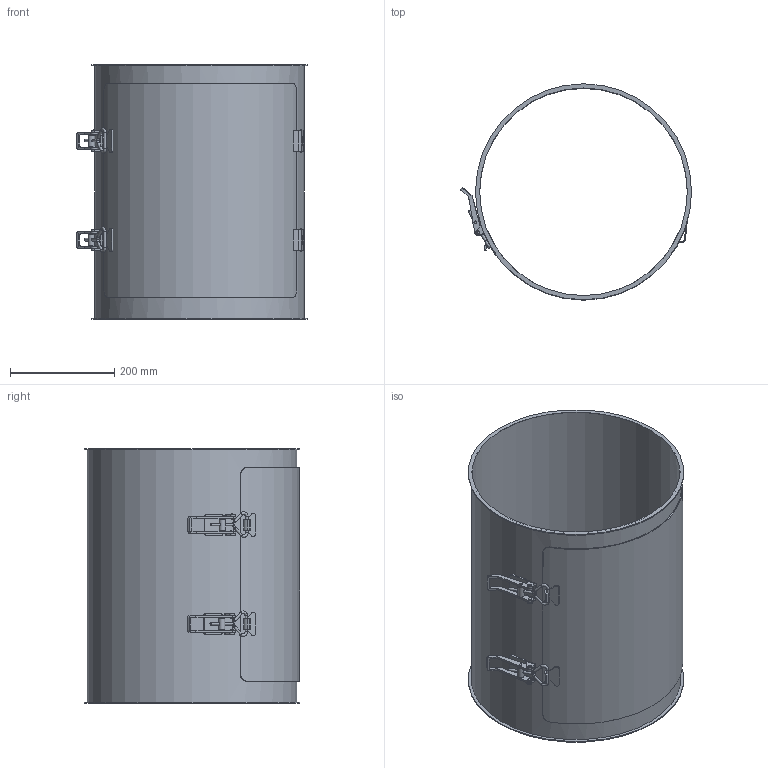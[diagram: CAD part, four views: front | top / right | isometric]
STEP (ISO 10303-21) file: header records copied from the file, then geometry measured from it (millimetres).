
FILE_DESCRIPTION((''),'2;1');
FILE_NAME('U:\Wolfgang\Marcel-3D\fertig\Kapitel 4\4021142.stp','2011-04-21T08:22:45',('TK1'),(''),'Autodesk Inventor 2010','Autodesk Inventor 2010','');
FILE_SCHEMA(('AUTOMOTIVE_DESIGN { 1 0 10303 214 1 1 1 1 }'));
Length unit declared in the file: millimetre
Products named in the file (14): 4021142; 4021142-Rohr; 4021142-verschluss; Verschluss ab 35-1; Verschluss ab 35-2; Verschluss ab 35-3; Verschluss ab 35-4; Verschluss ab 35-5; Gelenk40; Deckel40; 4021142 Halterung2; 4021142-Deckel; verschluss40; 4021142 Halterung3
Assembly tree (19 placements, depth 3):
  4021142
    4021142-Rohr
    4021142-verschluss  x2
      Verschluss ab 35-1
      Verschluss ab 35-2
      Verschluss ab 35-3
      Verschluss ab 35-4
      Verschluss ab 35-5
    Gelenk40  x2
    Deckel40
      4021142 Halterung2  x2
      4021142-Deckel
      verschluss40  x2
    4021142 Halterung3  x2
Bounding box: 442.78 x 414 x 488 mm (x, y, z)
Volume: 1423921.3 mm3; surface area: 1422734.6 mm2
Topology: 22 solids, 22 shells, 334 faces, 815 edges, 535 vertices
Faces by surface type: plane 157, cylinder 138, bspline 19, sphere 12, torus 8
Full cylindrical faces by diameter (mm): 4.917 x2, 5 x32, 6 x8, 12 x2, 398 x1, 402 x1, 414 x2
Entity records: 5925 total; most frequent: CARTESIAN_POINT 1344, DIRECTION 934, ORIENTED_EDGE 796, EDGE_CURVE 398, AXIS2_PLACEMENT_3D 363, VERTEX_POINT 279, EDGE_LOOP 241, VECTOR 208
